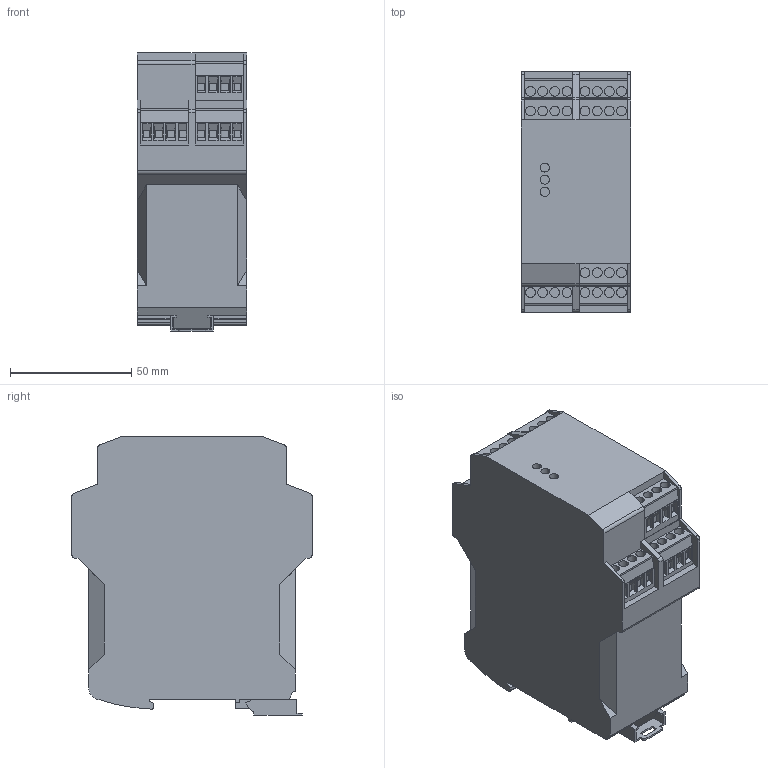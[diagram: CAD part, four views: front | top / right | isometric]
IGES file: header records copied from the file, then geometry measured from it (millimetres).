
Start section: Data from XPlus IGES,  Spatial Corp. Copyright (c) 1999-2004
Global section: file name: 118704.igs; native system:  By Spatial Corp.; preprocessor: XPlus ACIS/IGES 3.0; author: Noname; organization: Noname; date: 20110408.222047; units: millimetre
Bounding box: 45 x 99 x 114.5 mm (x, y, z)
Surface area: 40879.8 mm2 (no closed solid volume)
Topology: 0 solids, 0 shells, 547 faces, 2820 edges, 2820 vertices
Faces by surface type: extrusion 467, revolution 80
